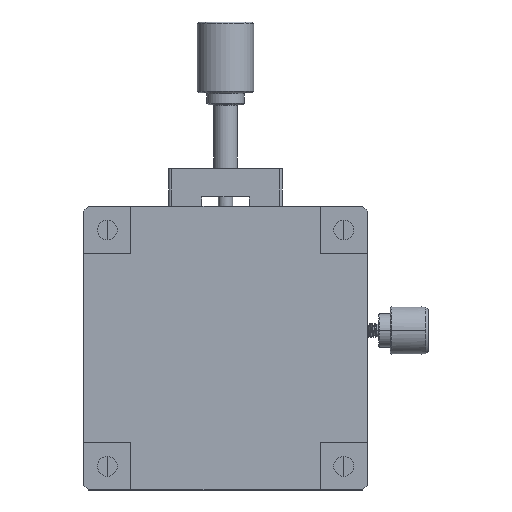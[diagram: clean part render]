
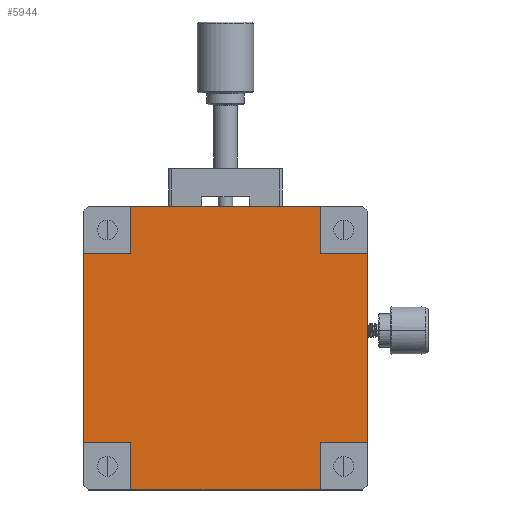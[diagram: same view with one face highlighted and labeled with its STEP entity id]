
A CAD part, front view. The second image highlights one B-rep face of the part: STEP entity #5944.
In plain terms, the highlighted planar face has unit normal (0, -1, 0).
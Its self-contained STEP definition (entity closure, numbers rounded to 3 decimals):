
#886 = AXIS2_PLACEMENT_3D ( 'NONE', #17800, #5027, #6556 ) ;
#1321 = VERTEX_POINT ( 'NONE', #37128 ) ;
#1929 = ORIENTED_EDGE ( 'NONE', *, *, #45096, .F. ) ;
#2994 = ORIENTED_EDGE ( 'NONE', *, *, #35290, .F. ) ;
#3477 = ORIENTED_EDGE ( 'NONE', *, *, #45768, .F. ) ;
#5027 = DIRECTION ( 'NONE',  ( 0., -1., 0. ) ) ;
#5291 = FACE_OUTER_BOUND ( 'NONE', #12132, .T. ) ;
#5369 = VECTOR ( 'NONE', #22438, 1000. ) ;
#5944 = ADVANCED_FACE ( 'NONE', ( #5291 ), #30044, .T. ) ;
#6556 = DIRECTION ( 'NONE',  ( 0., 0., -1. ) ) ;
#7764 = EDGE_CURVE ( 'NONE', #38592, #22075, #24490, .T. ) ;
#8236 = VERTEX_POINT ( 'NONE', #33620 ) ;
#8690 = CARTESIAN_POINT ( 'NONE',  ( 19.211, -39.275, -25.182 ) ) ;
#10816 = LINE ( 'NONE', #23576, #12124 ) ;
#10874 = LINE ( 'NONE', #11425, #51972 ) ;
#11425 = CARTESIAN_POINT ( 'NONE',  ( -20.789, -39.275, -25.182 ) ) ;
#11497 = VECTOR ( 'NONE', #20598, 1000. ) ;
#11591 = EDGE_CURVE ( 'NONE', #41906, #20059, #41337, .T. ) ;
#12124 = VECTOR ( 'NONE', #35569, 1000. ) ;
#12132 = EDGE_LOOP ( 'NONE', ( #44655, #23697, #31296, #15965, #12576, #30192, #49390, #48535, #2994, #3477, #1929, #20246 ) ) ;
#12179 = LINE ( 'NONE', #28220, #11497 ) ;
#12300 = LINE ( 'NONE', #49517, #37501 ) ;
#12576 = ORIENTED_EDGE ( 'NONE', *, *, #35498, .F. ) ;
#13350 = CARTESIAN_POINT ( 'NONE',  ( -30.789, -39.275, 24.818 ) ) ;
#13977 = EDGE_CURVE ( 'NONE', #38113, #38345, #18513, .T. ) ;
#14031 = LINE ( 'NONE', #18910, #5369 ) ;
#15589 = CARTESIAN_POINT ( 'NONE',  ( 19.211, -39.275, -15.182 ) ) ;
#15965 = ORIENTED_EDGE ( 'NONE', *, *, #11591, .T. ) ;
#15985 = DIRECTION ( 'NONE',  ( 0., 0., -1. ) ) ;
#17705 = VERTEX_POINT ( 'NONE', #45867 ) ;
#17800 = CARTESIAN_POINT ( 'NONE',  ( -0.789, -39.275, 4.818 ) ) ;
#17990 = CARTESIAN_POINT ( 'NONE',  ( -30.789, -39.275, 24.818 ) ) ;
#18331 = CARTESIAN_POINT ( 'NONE',  ( 29.211, -39.275, 24.818 ) ) ;
#18513 = LINE ( 'NONE', #17990, #33573 ) ;
#18910 = CARTESIAN_POINT ( 'NONE',  ( -20.789, -39.275, 34.818 ) ) ;
#19589 = EDGE_CURVE ( 'NONE', #8236, #42432, #25633, .T. ) ;
#20055 = CARTESIAN_POINT ( 'NONE',  ( 19.211, -39.275, -25.182 ) ) ;
#20059 = VERTEX_POINT ( 'NONE', #8690 ) ;
#20246 = ORIENTED_EDGE ( 'NONE', *, *, #13977, .F. ) ;
#20598 = DIRECTION ( 'NONE',  ( -1., 0., 0. ) ) ;
#21695 = CARTESIAN_POINT ( 'NONE',  ( 19.211, -39.275, 24.818 ) ) ;
#22075 = VERTEX_POINT ( 'NONE', #18331 ) ;
#22438 = DIRECTION ( 'NONE',  ( 0., 0., 1. ) ) ;
#23576 = CARTESIAN_POINT ( 'NONE',  ( 19.211, -39.275, 34.818 ) ) ;
#23697 = ORIENTED_EDGE ( 'NONE', *, *, #19589, .F. ) ;
#24490 = LINE ( 'NONE', #30124, #28730 ) ;
#24746 = DIRECTION ( 'NONE',  ( 1., 0., 0. ) ) ;
#24926 = VECTOR ( 'NONE', #24746, 1000. ) ;
#25633 = LINE ( 'NONE', #47551, #41439 ) ;
#25994 = CARTESIAN_POINT ( 'NONE',  ( -20.789, -39.275, 34.818 ) ) ;
#26207 = VECTOR ( 'NONE', #45974, 1000. ) ;
#28220 = CARTESIAN_POINT ( 'NONE',  ( 29.211, -39.275, -15.182 ) ) ;
#28272 = CARTESIAN_POINT ( 'NONE',  ( -20.789, -39.275, -25.182 ) ) ;
#28584 = DIRECTION ( 'NONE',  ( 1., 0., 0. ) ) ;
#28730 = VECTOR ( 'NONE', #28584, 1000. ) ;
#29679 = DIRECTION ( 'NONE',  ( 1., 0., 0. ) ) ;
#30044 = PLANE ( 'NONE',  #886 ) ;
#30124 = CARTESIAN_POINT ( 'NONE',  ( 29.211, -39.275, 24.818 ) ) ;
#30192 = ORIENTED_EDGE ( 'NONE', *, *, #42559, .F. ) ;
#30835 = VECTOR ( 'NONE', #15985, 1000. ) ;
#31296 = ORIENTED_EDGE ( 'NONE', *, *, #34896, .F. ) ;
#33573 = VECTOR ( 'NONE', #43238, 1000. ) ;
#33620 = CARTESIAN_POINT ( 'NONE',  ( -20.789, -39.275, -15.182 ) ) ;
#34896 = EDGE_CURVE ( 'NONE', #41906, #8236, #10874, .T. ) ;
#35290 = EDGE_CURVE ( 'NONE', #17705, #38592, #10816, .T. ) ;
#35498 = EDGE_CURVE ( 'NONE', #52102, #20059, #40713, .T. ) ;
#35569 = DIRECTION ( 'NONE',  ( 0., 0., -1. ) ) ;
#36641 = DIRECTION ( 'NONE',  ( 0., 0., -1. ) ) ;
#36997 = CARTESIAN_POINT ( 'NONE',  ( -30.789, -39.275, -25.182 ) ) ;
#37128 = CARTESIAN_POINT ( 'NONE',  ( 29.211, -39.275, -15.182 ) ) ;
#37501 = VECTOR ( 'NONE', #29679, 1000. ) ;
#37563 = CARTESIAN_POINT ( 'NONE',  ( 29.211, -39.275, 34.818 ) ) ;
#37829 = LINE ( 'NONE', #37563, #26207 ) ;
#38113 = VERTEX_POINT ( 'NONE', #13350 ) ;
#38345 = VERTEX_POINT ( 'NONE', #40768 ) ;
#38592 = VERTEX_POINT ( 'NONE', #21695 ) ;
#40713 = LINE ( 'NONE', #20055, #48585 ) ;
#40723 = CARTESIAN_POINT ( 'NONE',  ( -30.789, -39.275, 34.818 ) ) ;
#40768 = CARTESIAN_POINT ( 'NONE',  ( -20.789, -39.275, 24.818 ) ) ;
#41337 = LINE ( 'NONE', #36997, #24926 ) ;
#41439 = VECTOR ( 'NONE', #42213, 1000. ) ;
#41779 = LINE ( 'NONE', #40723, #30835 ) ;
#41906 = VERTEX_POINT ( 'NONE', #28272 ) ;
#42213 = DIRECTION ( 'NONE',  ( -1., 0., 0. ) ) ;
#42432 = VERTEX_POINT ( 'NONE', #49143 ) ;
#42559 = EDGE_CURVE ( 'NONE', #1321, #52102, #12179, .T. ) ;
#42663 = VERTEX_POINT ( 'NONE', #25994 ) ;
#43238 = DIRECTION ( 'NONE',  ( 1., 0., 0. ) ) ;
#44655 = ORIENTED_EDGE ( 'NONE', *, *, #51513, .T. ) ;
#45096 = EDGE_CURVE ( 'NONE', #38345, #42663, #14031, .T. ) ;
#45768 = EDGE_CURVE ( 'NONE', #42663, #17705, #12300, .T. ) ;
#45772 = EDGE_CURVE ( 'NONE', #1321, #22075, #37829, .T. ) ;
#45867 = CARTESIAN_POINT ( 'NONE',  ( 19.211, -39.275, 34.818 ) ) ;
#45974 = DIRECTION ( 'NONE',  ( 0., 0., 1. ) ) ;
#47551 = CARTESIAN_POINT ( 'NONE',  ( -30.789, -39.275, -15.182 ) ) ;
#48535 = ORIENTED_EDGE ( 'NONE', *, *, #7764, .F. ) ;
#48585 = VECTOR ( 'NONE', #36641, 1000. ) ;
#49143 = CARTESIAN_POINT ( 'NONE',  ( -30.789, -39.275, -15.182 ) ) ;
#49390 = ORIENTED_EDGE ( 'NONE', *, *, #45772, .T. ) ;
#49517 = CARTESIAN_POINT ( 'NONE',  ( -30.789, -39.275, 34.818 ) ) ;
#51513 = EDGE_CURVE ( 'NONE', #38113, #42432, #41779, .T. ) ;
#51625 = DIRECTION ( 'NONE',  ( 0., 0., 1. ) ) ;
#51972 = VECTOR ( 'NONE', #51625, 1000. ) ;
#52102 = VERTEX_POINT ( 'NONE', #15589 ) ;
